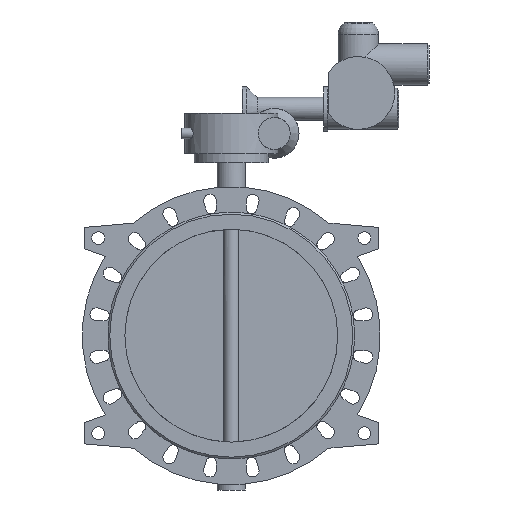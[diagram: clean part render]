
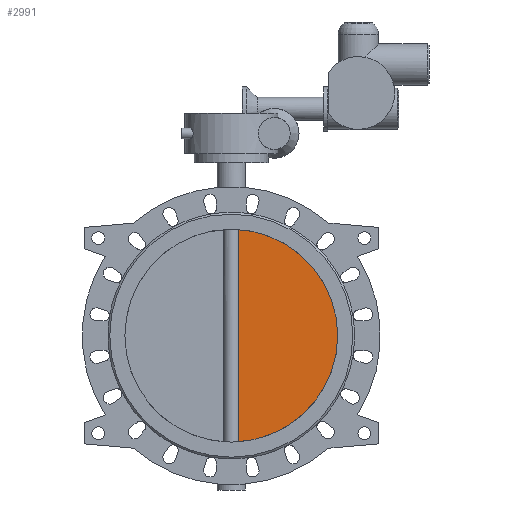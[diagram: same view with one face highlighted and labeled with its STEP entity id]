
A CAD part, front view. The second image highlights one B-rep face of the part: STEP entity #2991.
In plain terms, the highlighted planar face has unit normal (0, -1, 0).
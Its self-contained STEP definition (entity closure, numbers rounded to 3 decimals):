
#2991=ADVANCED_FACE('',(#5722),#5724,.T.);
#5722=FACE_BOUND('',#5723,.T.);
#5723=EDGE_LOOP('',(#7488,#7489));
#5724=PLANE('',#5725);
#5725=AXIS2_PLACEMENT_3D('',#5726,#5727,#5728);
#5726=CARTESIAN_POINT('',(0.,-7.5,0.));
#5727=DIRECTION('',(0.,-1.,0.));
#5728=DIRECTION('',(1.,0.,0.));
#7488=ORIENTED_EDGE('',*,*,#8363,.T.);
#7489=ORIENTED_EDGE('',*,*,#8373,.T.);
#8363=EDGE_CURVE('',#9830,#9831,#9832,.F.);
#8373=EDGE_CURVE('',#9831,#9830,#9850,.T.);
#9830=VERTEX_POINT('',#15584);
#9831=VERTEX_POINT('',#15585);
#9832=CIRCLE('',#15586,300.);
#9850=LINE('',#16017,#16018);
#15584=CARTESIAN_POINT('',(21.213,-7.5,-299.249));
#15585=CARTESIAN_POINT('',(21.213,-7.5,299.249));
#15586=AXIS2_PLACEMENT_3D('',#15587,#15588,#15589);
#15587=CARTESIAN_POINT('',(0.,-7.5,0.));
#15588=DIRECTION('',(0.,1.,0.));
#15589=DIRECTION('',(0.071,0.,0.997));
#16017=CARTESIAN_POINT('',(21.213,-7.5,299.249));
#16018=VECTOR('',#16019,1.);
#16019=DIRECTION('',(0.,0.,-1.));
